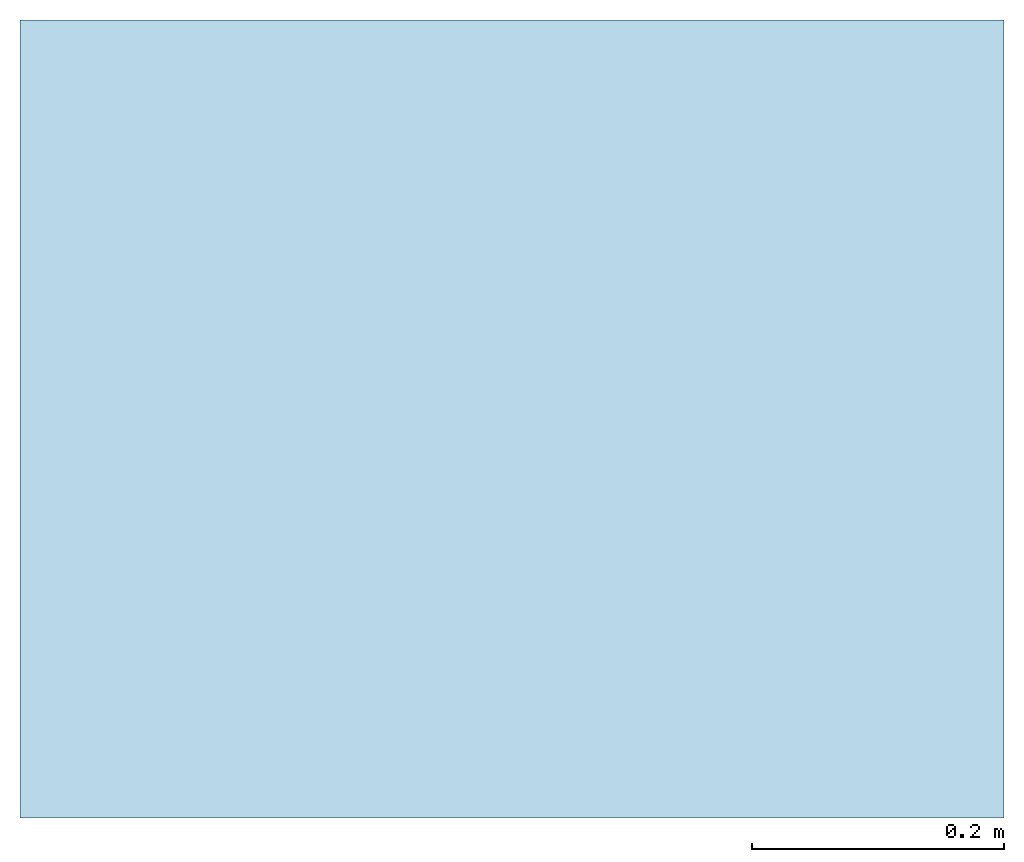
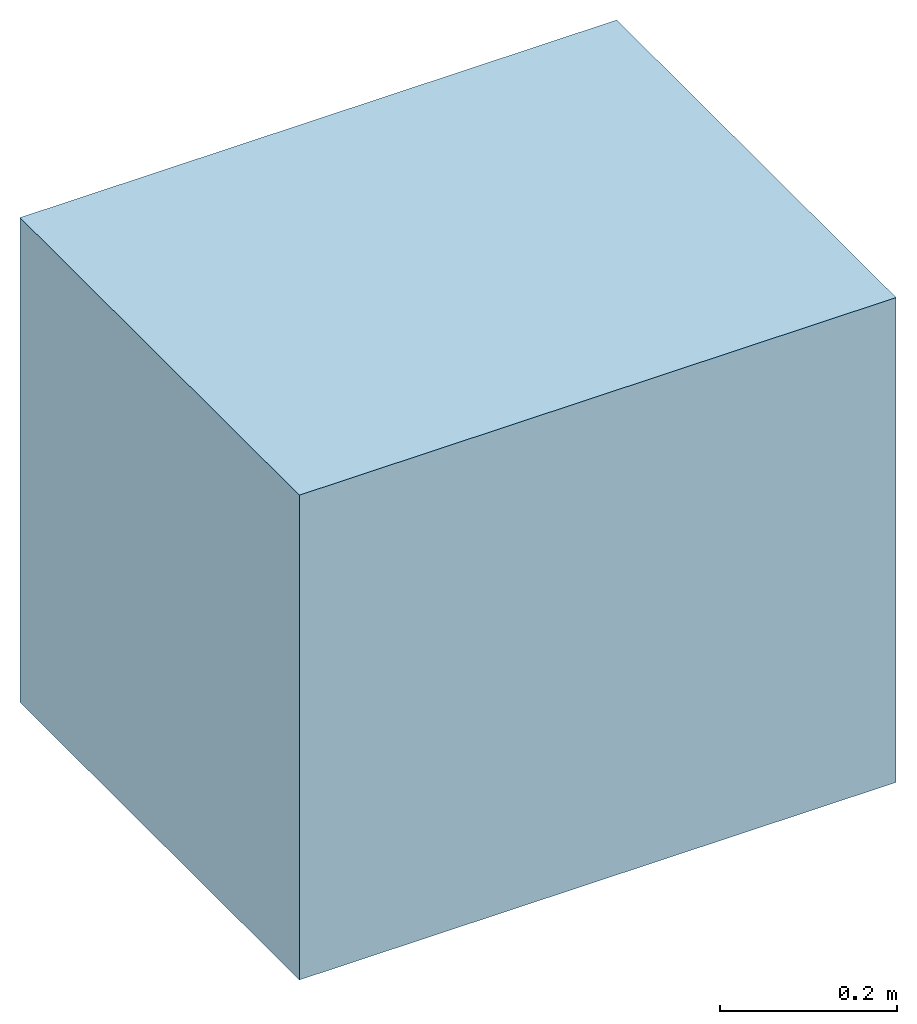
# One storey: 1 slab.
"""IFC4 building model written with IfcOpenShell, lengths in metres."""

import ifcopenshell
import ifcopenshell.guid

model = None  # the IFC model being written
_history = None  # IfcOwnerHistory: only IFC2X3 demands one
_inside = {}  # id of a spatial element -> (the spatial element, [elements in it])
_under = {}  # id of a project, library or spatial element -> (it, [spatial elements below it])
_declared = {}  # id of a project -> (the project, [libraries it declares])
_typed = {}  # id of a type object -> (the type object, [elements of that type])
_made_of = {}  # id of a material, layer set ... -> (it, [elements and type objects made of it])


def new_model(schema):
    """Start an empty IFC model of exactly this schema.

    Asked for "IFC4X3", IfcOpenShell would pick the latest addendum, in which some entities
    have other attributes; the version numbers below select the first issue.
    IFC2X3 requires an IfcOwnerHistory on every rooted entity: one is made here for all.
    """
    global model, _history
    if schema == "IFC4X3":
        model = ifcopenshell.file(schema_version=(4, 3, 0, 0))
    else:
        model = ifcopenshell.file(schema=schema)
    _inside.clear()
    _under.clear()
    _declared.clear()
    _typed.clear()
    _made_of.clear()
    _history = None
    if model.schema == "IFC2X3":
        org = make("IfcOrganization", Name="unknown")
        user = make(
            "IfcPersonAndOrganization",
            ThePerson=make("IfcPerson", FamilyName="unknown"),
            TheOrganization=org,
        )
        app = make(
            "IfcApplication",
            ApplicationDeveloper=org,
            Version="unknown",
            ApplicationFullName="unknown",
            ApplicationIdentifier="unknown",
        )
        _history = make(
            "IfcOwnerHistory",
            OwningUser=user,
            OwningApplication=app,
            ChangeAction="ADDED",
            CreationDate=0,
        )
    return model


def make(cls, **values):
    """One entity of the class cls with the attributes given. An attribute that is None is left unset."""
    return model.create_entity(
        cls, **{name: value for name, value in values.items() if value is not None}
    )


def entity(cls, *values):
    """Any entity or typed value of the class cls, its attributes in the order of the schema. None: left unset."""
    e = model.create_entity(cls)
    for i, value in enumerate(values):
        if value is not None:
            e[i] = value
    return e


def rooted(cls, **values):
    """An entity with a GlobalId (a new one), such as an element, a storey or a relation."""
    return make(cls, GlobalId=ifcopenshell.guid.new(), OwnerHistory=_history, **values)


def si_unit(unit_type, name, prefix=None):
    """IfcSIUnit, for example si_unit("LENGTHUNIT", "METRE", prefix="MILLI")."""
    return make("IfcSIUnit", UnitType=unit_type, Prefix=prefix, Name=name)


def converted_unit(unit_type, name, factor, base, dimensions=None, offset=None):
    """IfcConversionBasedUnit, such as the inch: factor (a typed value) times the base unit."""
    return make(
        "IfcConversionBasedUnit"
        if offset is None
        else "IfcConversionBasedUnitWithOffset",
        ConversionOffset=offset,
        Dimensions=None
        if dimensions is None
        else entity("IfcDimensionalExponents", *dimensions),
        UnitType=unit_type,
        Name=name,
        ConversionFactor=make(
            "IfcMeasureWithUnit", ValueComponent=factor, UnitComponent=base
        ),
    )


def assignment(units):
    """IfcUnitAssignment: the units of a project."""
    return None if units is None else make("IfcUnitAssignment", Units=units)


def point(xyz):
    """IfcCartesianPoint."""
    return None if xyz is None else make("IfcCartesianPoint", Coordinates=xyz)


def direction(xyz):
    """IfcDirection."""
    return None if xyz is None else make("IfcDirection", DirectionRatios=xyz)


def frame(location, z_axis=None, x_axis=None):
    """IfcAxis2Placement3D, a coordinate frame: its origin and axes. An axis left out is left unset."""
    return make(
        "IfcAxis2Placement3D",
        Location=point(location),
        Axis=direction(z_axis),
        RefDirection=direction(x_axis),
    )


def frame_2d(location, x_axis=None):
    """IfcAxis2Placement2D, a coordinate frame in the plane: its origin and x axis."""
    return make(
        "IfcAxis2Placement2D", Location=point(location), RefDirection=direction(x_axis)
    )


def origin():
    """The frame at (0, 0, 0) with its axes left unset."""
    return frame((0.0, 0.0, 0.0))


def place(relative_to, where):
    """IfcLocalPlacement: puts the frame where relative to a parent placement (None: the world)."""
    return make(
        "IfcLocalPlacement", PlacementRelTo=relative_to, RelativePlacement=where
    )


def context(
    kind, dimensions, precision=None, world=None, true_north=None, identifier=None
):
    """IfcGeometricRepresentationContext, for example the 3D "Model" context."""
    return make(
        "IfcGeometricRepresentationContext",
        ContextIdentifier=identifier,
        ContextType=kind,
        CoordinateSpaceDimension=dimensions,
        Precision=precision,
        WorldCoordinateSystem=world,
        TrueNorth=true_north,
    )


def subcontext(parent, identifier, kind, view, scale=None):
    """IfcGeometricRepresentationSubContext, for example "Body" below "Model"."""
    return make(
        "IfcGeometricRepresentationSubContext",
        ContextIdentifier=identifier,
        ContextType=kind,
        ParentContext=parent,
        TargetScale=scale,
        TargetView=view,
    )


def project(units=None, contexts=None):
    """IfcProject with its units and contexts."""
    return rooted(
        "IfcProject",
        Name="project",
        RepresentationContexts=contexts,
        UnitsInContext=assignment(units),
    )


def spatial(cls, under=None, at=None, **own):
    """A site, building, storey or space (cls), placed at a placement, below another one or the project."""
    s = rooted(cls, ObjectPlacement=at, **own)
    if under is not None:
        _under.setdefault(under.id(), (under, []))[1].append(s)
    return s


def profile(cls, at=None, kind="AREA", **sizes):
    """A parametric profile (cls). Its sizes go by their IFC names, for example OverallWidth=200.0."""
    return make(cls, ProfileType=kind, Position=at, **sizes)


def rectangle(**sizes):
    """IfcRectangleProfileDef."""
    return profile("IfcRectangleProfileDef", **sizes)


def extrude(swept, where, along, depth):
    """IfcExtrudedAreaSolid: the profile swept, set in the frame where, extruded along a direction by depth."""
    return make(
        "IfcExtrudedAreaSolid",
        SweptArea=swept,
        Position=where,
        ExtrudedDirection=direction(along),
        Depth=depth,
    )


def shape(context_of_items, identifier, shape_type, items):
    """IfcShapeRepresentation: the items that make up one representation, for example the "Body"."""
    return make(
        "IfcShapeRepresentation",
        ContextOfItems=context_of_items,
        RepresentationIdentifier=identifier,
        RepresentationType=shape_type,
        Items=items,
    )


def material(Name=None, Category=None):
    """IfcMaterial."""
    return make("IfcMaterial", Name=Name, Category=Category)


def made_of(thing, what):
    """Note that an element or type object is made of a material, layer set ...; save() writes the relation."""
    if what is not None:
        _made_of.setdefault(what.id(), (what, []))[1].append(thing)
    return thing


def type_object(cls, material=None, **own):
    """A type object (cls), such as IfcWallType, which elements share."""
    return made_of(rooted(cls, **own), material)


def element(
    cls,
    number,
    at=None,
    inside=None,
    cuts=None,
    type_object=None,
    material=None,
    context=None,
    identifier="Body",
    shape_type=None,
    held_by="IfcProductDefinitionShape",
    body=None,
    shapes=None,
    **own,
):
    """One element of the class cls, such as IfcWall. Its Tag is "e" and its number.

    at: its placement. inside: the storey or other place that contains it. cuts: it is an
    opening in that element (IfcRelVoidsElement). A single representation is given by context,
    identifier, shape_type and body (its items); several are given by shapes. held_by: the class
    of the entity that holds the representations. save() writes the other relations.
    """
    e = rooted(cls, Tag="e%d" % number, ObjectPlacement=at, **own)
    if body is not None:
        shapes = [shape(context, identifier, shape_type, body)]
    if shapes is not None:
        e.Representation = make(held_by, Representations=shapes)
    if inside is not None:
        _inside.setdefault(inside.id(), (inside, []))[1].append(e)
    if cuts is not None:
        rooted(
            "IfcRelVoidsElement", RelatingBuildingElement=cuts, RelatedOpeningElement=e
        )
    if type_object is not None:
        _typed.setdefault(type_object.id(), (type_object, []))[1].append(e)
    return made_of(e, material)


def aggregate(whole, parts):
    """IfcRelAggregates: a whole, such as a stair, and the parts it consists of."""
    return rooted("IfcRelAggregates", RelatingObject=whole, RelatedObjects=parts)


def save(model, path):
    """Write the relations noted so far, then the file.

    IfcRelAggregates (storeys below a building ...), IfcRelContainedInSpatialStructure (elements
    in a storey), IfcRelDefinesByType, IfcRelAssociatesMaterial and IfcRelDeclares: one each for
    every whole, place, type object, material and project.
    """
    for whole, parts in _under.values():
        aggregate(whole, parts)
    for where, things in _inside.values():
        rooted(
            "IfcRelContainedInSpatialStructure",
            RelatedElements=things,
            RelatingStructure=where,
        )
    for kind, things in _typed.values():
        rooted("IfcRelDefinesByType", RelatedObjects=things, RelatingType=kind)
    for what, things in _made_of.values():
        rooted("IfcRelAssociatesMaterial", RelatedObjects=things, RelatingMaterial=what)
    for by, libraries in _declared.values():
        rooted("IfcRelDeclares", RelatingContext=by, RelatedDefinitions=libraries)
    model.write(path)


model = new_model("IFC4")

# Units and contexts
model_context = context("Model", 3, precision=1e-05, world=origin(), true_north=direction((6.123031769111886e-17, 1.0)))
body_context = subcontext(model_context, "Body", "Model", "MODEL_VIEW")
ifc_project = project(units=[si_unit("LENGTHUNIT", "METRE"), converted_unit("PLANEANGLEUNIT", "DEGREE", entity("IfcPlaneAngleMeasure", 0.017453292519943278), si_unit("PLANEANGLEUNIT", "RADIAN"), dimensions=[0, 0, 0, 0, 0, 0, 0]), si_unit("AREAUNIT", "SQUARE_METRE")], contexts=[model_context])

# Site, building, storey
site_placement = place(None, origin())
site = spatial("IfcSite", under=ifc_project, at=site_placement, Name="Default", CompositionType="ELEMENT")
building_placement = place(site_placement, origin())
building = spatial("IfcBuilding", under=site, at=building_placement, CompositionType="ELEMENT")
storey_placement = place(building_placement, origin())
storey = spatial("IfcBuildingStorey", under=building, at=storey_placement, Name="Ebene 0", CompositionType="ELEMENT", Elevation=0.0)

# Slab
ifc_material = material(Name="DB_Magerbeton", Category="DB_Beton")
slab_type = type_object("IfcSlabType", Name="DB_BSK_55_Fundament_Ecke_aussen_variabel:DB_BSK_55_Fundament_Ecke_aussen_variabel", PredefinedType="BASESLAB", material=ifc_material)
slab_placement = place(storey_placement, origin())
element("IfcSlab", 1, at=slab_placement, inside=storey, type_object=slab_type, Name="DB_BSK_55_Fundament_Ecke_aussen_variabel:DB_BSK_55_Fundament_Ecke_aussen_variabel", ObjectType="DB_BSK_55_Fundament_Ecke_aussen_variabel:DB_BSK_55_Fundament_Ecke_aussen_variabel", PredefinedType="BASESLAB", context=body_context, shape_type="SweptSolid", body=[
    extrude(rectangle(XDim=0.7800000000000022, YDim=0.6325000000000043, at=frame_2d((4.718447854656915e-16, 0.0), x_axis=(1.0, 0.0))), frame((0.23000000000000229, 0.1562500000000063, -1.470164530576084), z_axis=(0.0, 0.0, 1.0), x_axis=(-1.0, 0.0, 0.0)), (0.0, 0.0, 1.0), 0.12000000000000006),
    extrude(rectangle(XDim=0.779999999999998, YDim=0.6325000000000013, at=frame_2d((4.996003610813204e-16, -2.7755575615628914e-17), x_axis=(1.0, 0.0))), frame((0.2300000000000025, 0.15625000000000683, -1.3501645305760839), z_axis=(0.0, 0.0, 1.0), x_axis=(-1.0, 0.0, 0.0)), (0.0, 0.0, 1.0), 0.5500000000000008),
])

save(model, "model.ifc")
